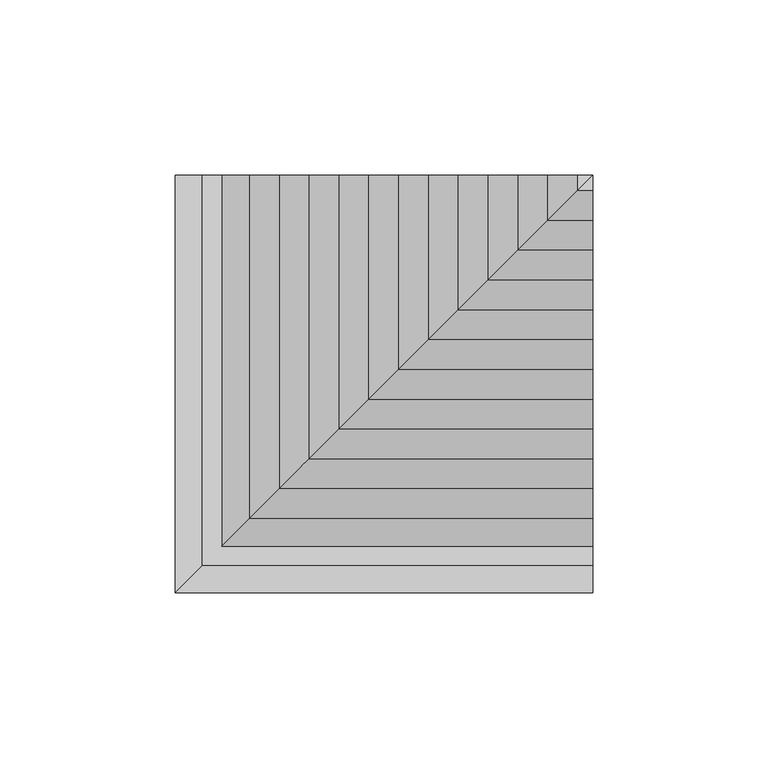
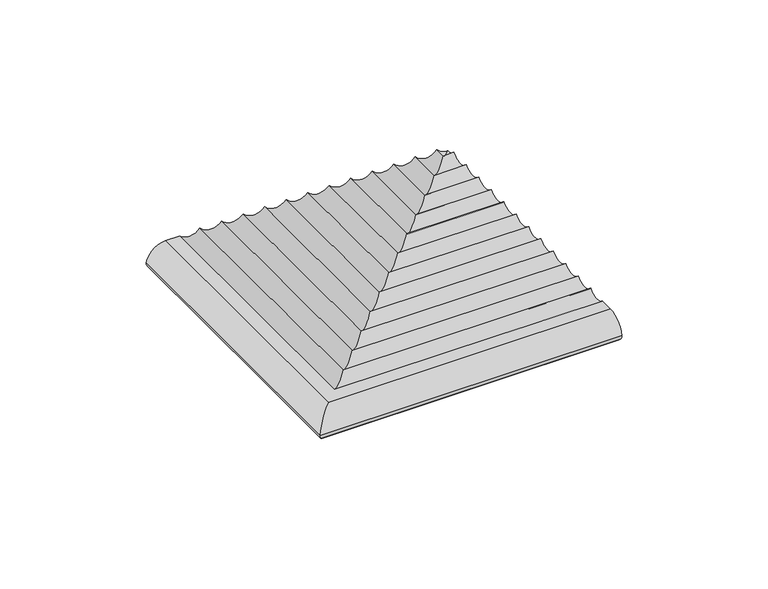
"""IFC4 building model written with IfcOpenShell, lengths in millimetres: proxy geometry, ROSA GRES_027 : Pieza 027_Aqua_Marino_Anti-Slip."""

from ifc_helpers import new_model, si_unit, frame, origin, place, context, project, spatial, polyline, circle_curve, ellipse_curve, source, transform, mapped, element, save
from ifc_brep_helpers import plane_surface, cylinder_surface, revolved_surface, advanced_brep


def generic_models_a4e0e9d1(model_context):
    return source(origin(), model_context, "Body", "AdvancedBrep", [
        advanced_brep(
        [(5.8096767, 5.8097508, 9.4971975), (-1.8322396, -1.8321654, 2.9846331), (117.0846492, -1.8321654, 2.9846331), (117.0846492, 5.8097508, 9.4971975), (-1.2899834, -1.2899092, 1.309592), (117.0846492, -1.2899092, 1.309592), (0.0196086, 0.0196827, 0.0), (117.0846492, 0.0196827, 0.0), (0.0196086, 117.0847234, 0.0), (117.0846492, 117.0847234, 0.0), (117.0846492, 117.0847234, 8.0603545), (112.8346492, 112.8347234, 10.0184612), (117.0846492, 112.8347234, 10.0184612), (104.3346492, 104.3347234, 10.0184612), (117.0846492, 104.3347234, 10.0184612), (95.8346492, 95.8347234, 10.0184612), (117.0846492, 95.8347234, 10.0184612), (87.3346492, 87.3347234, 10.0184612), (117.0846492, 87.3347234, 10.0184612), (78.8346492, 78.8347234, 10.0184612), (117.0846492, 78.8347234, 10.0184612), (70.3346492, 70.3347234, 10.0184612), (117.0846492, 70.3347234, 10.0184612), (61.8346492, 61.8347234, 10.0184612), (117.0846492, 61.8347234, 10.0184612), (53.3346492, 53.3347234, 10.0184612), (117.0846492, 53.3347234, 10.0184612), (44.8346492, 44.8347234, 10.0184612), (117.0846492, 44.8347234, 10.0184612), (36.3346492, 36.3347234, 10.0184612), (117.0846492, 36.3347234, 10.0184612), (27.8346492, 27.8347234, 10.0184612), (117.0846492, 27.8347234, 10.0184612), (19.3346492, 19.3347234, 10.0184612), (117.0846492, 19.3347234, 10.0184612), (11.3425787, 11.3426529, 9.4971975), (117.0846492, 11.3426529, 9.4971975), (11.3425787, 117.0847234, 9.4971975), (5.8096767, 117.0847234, 9.4971975), (-1.8322396, 117.0847234, 2.9846331), (-1.2899834, 117.0847234, 1.309592), (112.8346492, 117.0847234, 10.0184612), (104.3346492, 117.0847234, 10.0184612), (95.8346492, 117.0847234, 10.0184612), (87.3346492, 117.0847234, 10.0184612), (78.8346492, 117.0847234, 10.0184612), (70.3346492, 117.0847234, 10.0184612), (61.8346492, 117.0847234, 10.0184612), (53.3346492, 117.0847234, 10.0184612), (44.8346492, 117.0847234, 10.0184612), (36.3346492, 117.0847234, 10.0184612), (27.8346492, 117.0847234, 10.0184612), (19.3346492, 117.0847234, 10.0184612)],
        [
            (0, 1, ellipse_curve(frame((5.8096767, 5.8097508, 1.7573601), z_axis=(0.7071067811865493, -0.7071067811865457, 0.0), x_axis=(0.7071067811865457, 0.7071067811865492, 0.0)), 10.945783, 7.7398374)),
            (1, 2),
            (2, 3, circle_curve(frame((117.0846492, 5.8097508, 1.7573601), z_axis=(-1.0, 0.0, 0.0), x_axis=(0.0, -1.0, 0.0)), 7.7398374)),
            (3, 0),
            (1, 4, ellipse_curve(frame((0.0782395, 0.0783136, 2.6778148), z_axis=(0.7071067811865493, -0.7071067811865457, 0.0), x_axis=(0.7071067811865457, 0.7071067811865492, 0.0)), 2.7364458, 1.9349594)),
            (4, 5),
            (5, 2, circle_curve(frame((117.0846492, 0.0783136, 2.6778148), z_axis=(-1.0, 0.0, 0.0), x_axis=(0.0, -1.0, 0.0)), 1.9349594)),
            (4, 6),
            (6, 7),
            (7, 5),
            (6, 8),
            (8, 9),
            (9, 7),
            (10, 11, ellipse_curve(frame((117.0846492, 117.0847234, 13.6516438), z_axis=(-0.7071067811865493, 0.7071067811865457, 0.0), x_axis=(-0.7071067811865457, -0.7071067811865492, 0.0)), 7.9072771, 5.5912893)),
            (11, 12),
            (12, 10, circle_curve(frame((117.0846492, 117.0847234, 13.6516438), z_axis=(1.0, 0.0, 0.0), x_axis=(0.0, -1.0, 0.0)), 5.5912893)),
            (11, 13, ellipse_curve(frame((108.5846492, 108.5847234, 13.6516438), z_axis=(-0.7071067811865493, 0.7071067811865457, 0.0), x_axis=(-0.7071067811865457, -0.7071067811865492, 0.0)), 7.9072771, 5.5912893)),
            (13, 14),
            (14, 12, circle_curve(frame((117.0846492, 108.5847234, 13.6516438), z_axis=(1.0, 0.0, 0.0), x_axis=(0.0, -1.0, 0.0)), 5.5912893)),
            (13, 15, ellipse_curve(frame((100.0846492, 100.0847234, 13.6516438), z_axis=(-0.7071067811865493, 0.7071067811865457, 0.0), x_axis=(-0.7071067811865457, -0.7071067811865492, 0.0)), 7.9072771, 5.5912893)),
            (15, 16),
            (16, 14, circle_curve(frame((117.0846492, 100.0847234, 13.6516438), z_axis=(1.0, 0.0, 0.0), x_axis=(0.0, -1.0, 0.0)), 5.5912893)),
            (15, 17, ellipse_curve(frame((91.5846492, 91.5847234, 13.6516438), z_axis=(-0.7071067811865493, 0.7071067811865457, 0.0), x_axis=(-0.7071067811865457, -0.7071067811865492, 0.0)), 7.9072771, 5.5912893)),
            (17, 18),
            (18, 16, circle_curve(frame((117.0846492, 91.5847234, 13.6516438), z_axis=(1.0, 0.0, 0.0), x_axis=(0.0, -1.0, 0.0)), 5.5912893)),
            (17, 19, ellipse_curve(frame((83.0846492, 83.0847234, 13.6516438), z_axis=(-0.7071067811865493, 0.7071067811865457, 0.0), x_axis=(-0.7071067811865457, -0.7071067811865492, 0.0)), 7.9072771, 5.5912893)),
            (19, 20),
            (20, 18, circle_curve(frame((117.0846492, 83.0847234, 13.6516438), z_axis=(1.0, 0.0, 0.0), x_axis=(0.0, -1.0, 0.0)), 5.5912893)),
            (19, 21, ellipse_curve(frame((74.5846492, 74.5847234, 13.6516438), z_axis=(-0.7071067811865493, 0.7071067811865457, 0.0), x_axis=(-0.7071067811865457, -0.7071067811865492, 0.0)), 7.9072771, 5.5912893)),
            (21, 22),
            (22, 20, circle_curve(frame((117.0846492, 74.5847234, 13.6516438), z_axis=(1.0, 0.0, 0.0), x_axis=(0.0, -1.0, 0.0)), 5.5912893)),
            (21, 23, ellipse_curve(frame((66.0846492, 66.0847234, 13.6516438), z_axis=(-0.7071067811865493, 0.7071067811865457, 0.0), x_axis=(-0.7071067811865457, -0.7071067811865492, 0.0)), 7.9072771, 5.5912893)),
            (23, 24),
            (24, 22, circle_curve(frame((117.0846492, 66.0847234, 13.6516438), z_axis=(1.0, 0.0, 0.0), x_axis=(0.0, -1.0, 0.0)), 5.5912893)),
            (23, 25, ellipse_curve(frame((57.5846492, 57.5847234, 13.6516438), z_axis=(-0.7071067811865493, 0.7071067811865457, 0.0), x_axis=(-0.7071067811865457, -0.7071067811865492, 0.0)), 7.9072771, 5.5912893)),
            (25, 26),
            (26, 24, circle_curve(frame((117.0846492, 57.5847234, 13.6516438), z_axis=(1.0, 0.0, 0.0), x_axis=(0.0, -1.0, 0.0)), 5.5912893)),
            (25, 27, ellipse_curve(frame((49.0846492, 49.0847234, 13.6516438), z_axis=(-0.7071067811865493, 0.7071067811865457, 0.0), x_axis=(-0.7071067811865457, -0.7071067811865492, 0.0)), 7.9072771, 5.5912893)),
            (27, 28),
            (28, 26, circle_curve(frame((117.0846492, 49.0847234, 13.6516438), z_axis=(1.0, 0.0, 0.0), x_axis=(0.0, -1.0, 0.0)), 5.5912893)),
            (27, 29, ellipse_curve(frame((40.5846492, 40.5847234, 13.6516438), z_axis=(-0.7071067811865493, 0.7071067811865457, 0.0), x_axis=(-0.7071067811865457, -0.7071067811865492, 0.0)), 7.9072771, 5.5912893)),
            (29, 30),
            (30, 28, circle_curve(frame((117.0846492, 40.5847234, 13.6516438), z_axis=(1.0, 0.0, 0.0), x_axis=(0.0, -1.0, 0.0)), 5.5912893)),
            (29, 31, ellipse_curve(frame((32.0846492, 32.0847234, 13.6516438), z_axis=(-0.7071067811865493, 0.7071067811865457, 0.0), x_axis=(-0.7071067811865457, -0.7071067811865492, 0.0)), 7.9072771, 5.5912893)),
            (31, 32),
            (32, 30, circle_curve(frame((117.0846492, 32.0847234, 13.6516438), z_axis=(1.0, 0.0, 0.0), x_axis=(0.0, -1.0, 0.0)), 5.5912893)),
            (31, 33, ellipse_curve(frame((23.5846492, 23.5847234, 13.6516438), z_axis=(-0.7071067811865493, 0.7071067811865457, 0.0), x_axis=(-0.7071067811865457, -0.7071067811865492, 0.0)), 7.9072771, 5.5912893)),
            (33, 34),
            (34, 32, circle_curve(frame((117.0846492, 23.5847234, 13.6516438), z_axis=(1.0, 0.0, 0.0), x_axis=(0.0, -1.0, 0.0)), 5.5912893)),
            (33, 35, ellipse_curve(frame((15.0846492, 15.0847234, 13.6516438), z_axis=(-0.7071067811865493, 0.7071067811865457, 0.0), x_axis=(-0.7071067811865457, -0.7071067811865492, 0.0)), 7.9072771, 5.5912893)),
            (35, 36),
            (36, 34, circle_curve(frame((117.0846492, 15.0847234, 13.6516438), z_axis=(1.0, 0.0, 0.0), x_axis=(0.0, -1.0, 0.0)), 5.5912893)),
            (3, 36),
            (35, 37),
            (37, 38),
            (38, 0),
            (38, 39, circle_curve(frame((5.8096767, 117.0847234, 1.7573601), z_axis=(0.0, -1.0, 0.0), x_axis=(-1.0, 0.0, 0.0)), 7.7398374)),
            (39, 1),
            (39, 40, circle_curve(frame((0.0782395, 117.0847234, 2.6778148), z_axis=(0.0, -1.0, 0.0), x_axis=(-1.0, 0.0, 0.0)), 1.9349594)),
            (40, 4),
            (40, 8),
            (10, 41, circle_curve(frame((117.0846492, 117.0847234, 13.6516438), z_axis=(0.0, 1.0, 0.0), x_axis=(-1.0, 0.0, 0.0)), 5.5912893)),
            (41, 11),
            (41, 42, circle_curve(frame((108.5846492, 117.0847234, 13.6516438), z_axis=(0.0, 1.0, 0.0), x_axis=(-1.0, 0.0, 0.0)), 5.5912893)),
            (42, 13),
            (42, 43, circle_curve(frame((100.0846492, 117.0847234, 13.6516438), z_axis=(0.0, 1.0, 0.0), x_axis=(-1.0, 0.0, 0.0)), 5.5912893)),
            (43, 15),
            (43, 44, circle_curve(frame((91.5846492, 117.0847234, 13.6516438), z_axis=(0.0, 1.0, 0.0), x_axis=(-1.0, 0.0, 0.0)), 5.5912893)),
            (44, 17),
            (44, 45, circle_curve(frame((83.0846492, 117.0847234, 13.6516438), z_axis=(0.0, 1.0, 0.0), x_axis=(-1.0, 0.0, 0.0)), 5.5912893)),
            (45, 19),
            (45, 46, circle_curve(frame((74.5846492, 117.0847234, 13.6516438), z_axis=(0.0, 1.0, 0.0), x_axis=(-1.0, 0.0, 0.0)), 5.5912893)),
            (46, 21),
            (46, 47, circle_curve(frame((66.0846492, 117.0847234, 13.6516438), z_axis=(0.0, 1.0, 0.0), x_axis=(-1.0, 0.0, 0.0)), 5.5912893)),
            (47, 23),
            (47, 48, circle_curve(frame((57.5846492, 117.0847234, 13.6516438), z_axis=(0.0, 1.0, 0.0), x_axis=(-1.0, 0.0, 0.0)), 5.5912893)),
            (48, 25),
            (48, 49, circle_curve(frame((49.0846492, 117.0847234, 13.6516438), z_axis=(0.0, 1.0, 0.0), x_axis=(-1.0, 0.0, 0.0)), 5.5912893)),
            (49, 27),
            (49, 50, circle_curve(frame((40.5846492, 117.0847234, 13.6516438), z_axis=(0.0, 1.0, 0.0), x_axis=(-1.0, 0.0, 0.0)), 5.5912893)),
            (50, 29),
            (50, 51, circle_curve(frame((32.0846492, 117.0847234, 13.6516438), z_axis=(0.0, 1.0, 0.0), x_axis=(-1.0, 0.0, 0.0)), 5.5912893)),
            (51, 31),
            (51, 52, circle_curve(frame((23.5846492, 117.0847234, 13.6516438), z_axis=(0.0, 1.0, 0.0), x_axis=(-1.0, 0.0, 0.0)), 5.5912893)),
            (52, 33),
            (52, 37, circle_curve(frame((15.0846492, 117.0847234, 13.6516438), z_axis=(0.0, 1.0, 0.0), x_axis=(-1.0, 0.0, 0.0)), 5.5912893)),
            (10, 9),
        ],
        [
            cylinder_surface(frame((120.0196086, 5.8097508, 1.7573601), z_axis=(1.0, 0.0, 0.0), x_axis=(0.0, -1.0, 0.0)), 7.7398374),
            cylinder_surface(frame((120.0196086, 0.0783136, 2.6778148), z_axis=(1.0, 0.0, 0.0), x_axis=(0.0, -1.0, 0.0)), 1.9349594),
            plane_surface(frame((120.0196086, -1.2899092, 1.309592), z_axis=(0.0, -0.7071067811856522, -0.707106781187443), x_axis=(-1.0, 0.0, 0.0))),
            plane_surface(frame((120.0196086, 0.0196827, 0.0), z_axis=(0.0, 0.0, -1.0), x_axis=(-1.0, 0.0, 0.0))),
            revolved_surface(polyline([(111.49335994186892, 111.4934341, 13.6516438), (122.67593845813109, 111.4934341, 13.6516438)]), (120.0196086, 117.0847234, 13.6516438), (-1.0, 0.0, 0.0)),
            revolved_surface(polyline([(102.99335994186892, 102.9934341, 13.6516438), (117.0846492, 102.9934341, 13.6516438)]), (120.0196086, 108.5847234, 13.6516438), (-1.0, 0.0, 0.0)),
            revolved_surface(polyline([(94.49335994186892, 94.4934341, 13.6516438), (117.0846492, 94.4934341, 13.6516438)]), (120.0196086, 100.0847234, 13.6516438), (-1.0, 0.0, 0.0)),
            revolved_surface(polyline([(85.99335994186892, 85.9934341, 13.6516438), (117.0846492, 85.9934341, 13.6516438)]), (120.0196086, 91.5847234, 13.6516438), (-1.0, 0.0, 0.0)),
            revolved_surface(polyline([(77.49335994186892, 77.4934341, 13.6516438), (117.0846492, 77.4934341, 13.6516438)]), (120.0196086, 83.0847234, 13.6516438), (-1.0, 0.0, 0.0)),
            revolved_surface(polyline([(68.99335994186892, 68.9934341, 13.6516438), (117.0846492, 68.9934341, 13.6516438)]), (120.0196086, 74.5847234, 13.6516438), (-1.0, 0.0, 0.0)),
            revolved_surface(polyline([(60.49335994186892, 60.4934341, 13.6516438), (117.0846492, 60.4934341, 13.6516438)]), (120.0196086, 66.0847234, 13.6516438), (-1.0, 0.0, 0.0)),
            revolved_surface(polyline([(51.99335994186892, 51.9934341, 13.6516438), (117.0846492, 51.9934341, 13.6516438)]), (120.0196086, 57.5847234, 13.6516438), (-1.0, 0.0, 0.0)),
            revolved_surface(polyline([(43.49335994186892, 43.4934341, 13.6516438), (117.0846492, 43.4934341, 13.6516438)]), (120.0196086, 49.0847234, 13.6516438), (-1.0, 0.0, 0.0)),
            revolved_surface(polyline([(34.99335994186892, 34.9934341, 13.6516438), (117.0846492, 34.9934341, 13.6516438)]), (120.0196086, 40.5847234, 13.6516438), (-1.0, 0.0, 0.0)),
            revolved_surface(polyline([(26.493359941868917, 26.4934341, 13.6516438), (117.0846492, 26.4934341, 13.6516438)]), (120.0196086, 32.0847234, 13.6516438), (-1.0, 0.0, 0.0)),
            revolved_surface(polyline([(17.993359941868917, 17.9934341, 13.6516438), (117.0846492, 17.9934341, 13.6516438)]), (120.0196086, 23.5847234, 13.6516438), (-1.0, 0.0, 0.0)),
            revolved_surface(polyline([(9.493359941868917, 9.4934341, 13.6516438), (117.0846492, 9.4934341, 13.6516438)]), (120.0196086, 15.0847234, 13.6516438), (-1.0, 0.0, 0.0)),
            plane_surface(frame((120.0196086, 11.3426529, 9.4971975), z_axis=(0.0, 0.0, 1.0), x_axis=(-1.0, 0.0, 0.0))),
            cylinder_surface(frame((5.8096767, 0.0196827, 1.7573601), z_axis=(0.0, -1.0, 0.0), x_axis=(-1.0, 0.0, 0.0)), 7.7398374),
            cylinder_surface(frame((0.0782395, 0.0196827, 2.6778148), z_axis=(0.0, -1.0, 0.0), x_axis=(-1.0, 0.0, 0.0)), 1.9349594),
            plane_surface(frame((-1.2899834, -1.2899092, 1.309592), z_axis=(-0.7071067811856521, 0.0, -0.707106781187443), x_axis=(0.0, 1.0, 0.0))),
            revolved_surface(polyline([(111.4933599, 122.67601265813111, 13.6516438), (111.4933599, 111.49343414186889, 13.6516438)]), (117.0846492, 0.0196827, 13.6516438), (0.0, 1.0, 0.0)),
            revolved_surface(polyline([(102.9933599, 117.0847234, 13.6516438), (102.9933599, 102.99343414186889, 13.6516438)]), (108.5846492, 0.0196827, 13.6516438), (0.0, 1.0, 0.0)),
            revolved_surface(polyline([(94.4933599, 117.0847234, 13.6516438), (94.4933599, 94.49343414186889, 13.6516438)]), (100.0846492, 0.0196827, 13.6516438), (0.0, 1.0, 0.0)),
            revolved_surface(polyline([(85.9933599, 117.0847234, 13.6516438), (85.9933599, 85.99343414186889, 13.6516438)]), (91.5846492, 0.0196827, 13.6516438), (0.0, 1.0, 0.0)),
            revolved_surface(polyline([(77.4933599, 117.0847234, 13.6516438), (77.4933599, 77.49343414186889, 13.6516438)]), (83.0846492, 0.0196827, 13.6516438), (0.0, 1.0, 0.0)),
            revolved_surface(polyline([(68.9933599, 117.0847234, 13.6516438), (68.9933599, 68.99343414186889, 13.6516438)]), (74.5846492, 0.0196827, 13.6516438), (0.0, 1.0, 0.0)),
            revolved_surface(polyline([(60.4933599, 117.0847234, 13.6516438), (60.4933599, 60.49343414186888, 13.6516438)]), (66.0846492, 0.0196827, 13.6516438), (0.0, 1.0, 0.0)),
            revolved_surface(polyline([(51.9933599, 117.0847234, 13.6516438), (51.9933599, 51.99343414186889, 13.6516438)]), (57.5846492, 0.0196827, 13.6516438), (0.0, 1.0, 0.0)),
            revolved_surface(polyline([(43.4933599, 117.0847234, 13.6516438), (43.4933599, 43.49343414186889, 13.6516438)]), (49.0846492, 0.0196827, 13.6516438), (0.0, 1.0, 0.0)),
            revolved_surface(polyline([(34.9933599, 117.0847234, 13.6516438), (34.9933599, 34.99343414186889, 13.6516438)]), (40.5846492, 0.0196827, 13.6516438), (0.0, 1.0, 0.0)),
            revolved_surface(polyline([(26.4933599, 117.0847234, 13.6516438), (26.4933599, 26.493434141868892, 13.6516438)]), (32.0846492, 0.0196827, 13.6516438), (0.0, 1.0, 0.0)),
            revolved_surface(polyline([(17.9933599, 117.0847234, 13.6516438), (17.9933599, 17.99343414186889, 13.6516438)]), (23.5846492, 0.0196827, 13.6516438), (0.0, 1.0, 0.0)),
            revolved_surface(polyline([(9.4933599, 117.0847234, 13.6516438), (9.4933599, 9.493434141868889, 13.6516438)]), (15.0846492, 0.0196827, 13.6516438), (0.0, 1.0, 0.0)),
            plane_surface(frame((-7.8567199, 117.0847234, 11.3479314), z_axis=(0.0, 1.0, 0.0), x_axis=(0.0, 0.0, -1.0))),
            plane_surface(frame((117.0846492, 117.0847234, 11.3479314), z_axis=(1.0, 0.0, 0.0), x_axis=(0.0, 0.0, -1.0))),
        ],
        [
            (0, [[1, 2, 3, 4]]),
            (1, [[5, 6, 7, -2]]),
            (2, [[8, 9, 10, -6]]),
            (3, [[-9, 11, 12, 13]]),
            (4, [[14, 15, 16]]),
            (5, [[17, 18, 19, -15]]),
            (6, [[20, 21, 22, -18]]),
            (7, [[23, 24, 25, -21]]),
            (8, [[26, 27, 28, -24]]),
            (9, [[29, 30, 31, -27]]),
            (10, [[32, 33, 34, -30]]),
            (11, [[35, 36, 37, -33]]),
            (12, [[38, 39, 40, -36]]),
            (13, [[41, 42, 43, -39]]),
            (14, [[44, 45, 46, -42]]),
            (15, [[47, 48, 49, -45]]),
            (16, [[50, 51, 52, -48]]),
            (17, [[-4, 53, -51, 54, 55, 56]]),
            (18, [[-1, -56, 57, 58]]),
            (19, [[-5, -58, 59, 60]]),
            (20, [[-8, -60, 61, -11]]),
            (21, [[-14, 62, 63]]),
            (22, [[-17, -63, 64, 65]]),
            (23, [[-20, -65, 66, 67]]),
            (24, [[-23, -67, 68, 69]]),
            (25, [[-26, -69, 70, 71]]),
            (26, [[-29, -71, 72, 73]]),
            (27, [[-32, -73, 74, 75]]),
            (28, [[-35, -75, 76, 77]]),
            (29, [[-38, -77, 78, 79]]),
            (30, [[-41, -79, 80, 81]]),
            (31, [[-44, -81, 82, 83]]),
            (32, [[-47, -83, 84, 85]]),
            (33, [[-50, -85, 86, -54]]),
            (34, [[87, -12, -61, -59, -57, -55, -86, -84, -82, -80, -78, -76, -74, -72, -70, -68, -66, -64, -62]]),
            (35, [[-87, -16, -19, -22, -25, -28, -31, -34, -37, -40, -43, -46, -49, -52, -53, -3, -7, -10, -13]]),
        ],
    ),
    ])


if __name__ == "__main__":
    model = new_model("IFC4")
    model_context = context("Model", 3, world=origin())
    ifc_project = project(units=[si_unit("LENGTHUNIT", "METRE", prefix="MILLI")], contexts=[model_context])
    site = spatial("IfcSite", under=ifc_project)
    building = spatial("IfcBuilding", under=site)
    placement = place(None, origin())
    generic_models_shape = generic_models_a4e0e9d1(model_context)
    element("IfcBuildingElementProxy", 1, Name="ROSA GRES_027 : Pieza 027_Aqua_Marino_Anti-Slip", ObjectType="ROSA GRES_027 : Pieza 027_Aqua_Marino_Anti-Slip", at=placement, inside=building, context=model_context, shape_type="MappedRepresentation", body=[
        mapped(generic_models_shape, transform((0.0, 0.0, 0.0), x_axis=(1.0, 0.0, 0.0), y_axis=(0.0, 1.0, 0.0), z_axis=(0.0, 0.0, 1.0))),
    ])
    save(model, "model.ifc")
